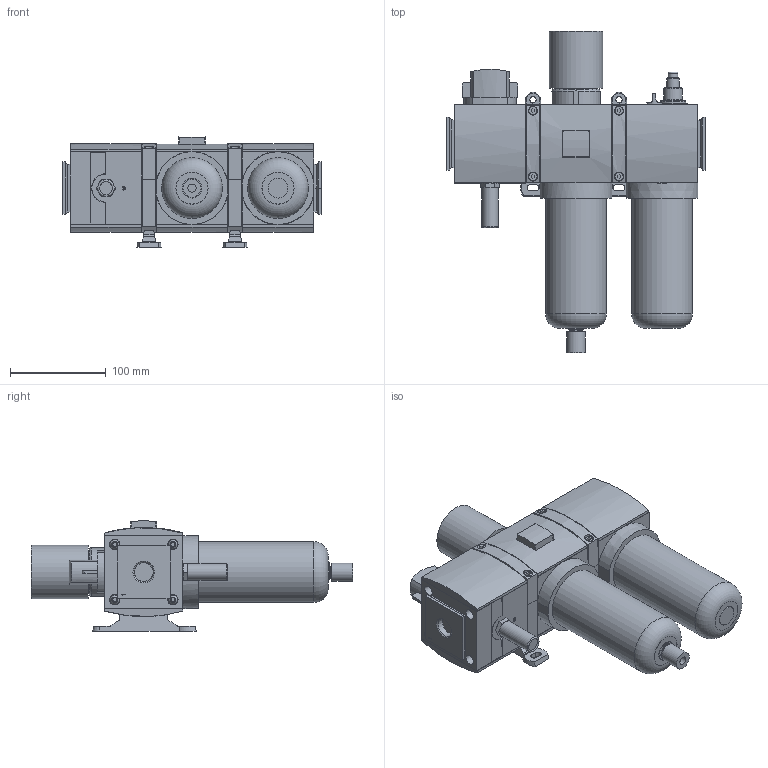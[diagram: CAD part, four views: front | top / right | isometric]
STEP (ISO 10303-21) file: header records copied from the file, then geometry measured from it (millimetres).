
FILE_DESCRIPTION( ( 'STEP AP214' ), '1' );
FILE_NAME( 'p:/temp/worker_21/temp/exporttempdir_4728_289_EllpH/format_0/12242020-140220_gen_24107.stp', '2020-02-12T13:24:21', ( '' ), ( '' ), ' ', 'PARTsolutions', ' ' );
FILE_SCHEMA( ( 'AUTOMOTIVE_DESIGN { 1 0 10303 214 1 1 1 1 }' ) );
Length unit declared in the file: millimetre
Products named in the file (15): 12242020-140220_gen_24107; _440562-004-004-F(L); _439489-001-0; _437742 KNOB-100_653; _653-M3MN; _440561-004-004-F(L); _G653ASLA0B00A00_LS; _439488-010-F(L); _653-438047-009; _439489-002-H; _503493-001; _510722-001-STANDARD_653; _507439-006-P; _653-440512-002; _500180-013-F(L)
Assembly tree (20 placements, depth 2):
  12242020-140220_gen_24107
    _440562-004-004-F(L)
    _439489-001-0  x5
    _437742 KNOB-100_653
    _653-M3MN
    _440561-004-004-F(L)
    _G653ASLA0B00A00_LS  x2
    _439488-010-F(L)
    _653-438047-009
    _439489-002-H
    _503493-001
    _510722-001-STANDARD_653
    _507439-006-P  x2
    _653-440512-002
    _500180-013-F(L)
Bounding box: 270 x 335.95 x 115.36 mm (x, y, z)
Volume: 3135723.2 mm3; surface area: 409223.6 mm2
Topology: 20 solids, 21 shells, 1159 faces, 2813 edges, 1800 vertices
Faces by surface type: plane 786, cylinder 244, cone 92, torus 33, sphere 4
Full cylindrical faces by diameter (mm): 1.7 x2, 2.8 x2, 5.85 x4, 6.3 x4, 6.5 x2, 8.5 x4, 8.6 x1, 9.652 x1, 10 x5, 10.4 x1, 10.8 x4, 12 x4, 12.309 x1, 12.985 x1, 13 x2, 15.1 x1, 15.875 x1, 16.105 x1, 17.3 x1, 19 x1, 19.4 x1, 21.6 x1, 27 x1, 29.5 x1, 30 x1, 33.5 x2, 43 x1, 51 x1, 55.99 x1, 63.5 x2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
Entity records: 37813 total; most frequent: CARTESIAN_POINT 5687, DIRECTION 4986, ORIENTED_EDGE 4628, EDGE_CURVE 2314, AXIS2_PLACEMENT_3D 1706, LINE 1574, VECTOR 1574, VERTEX_POINT 1554
